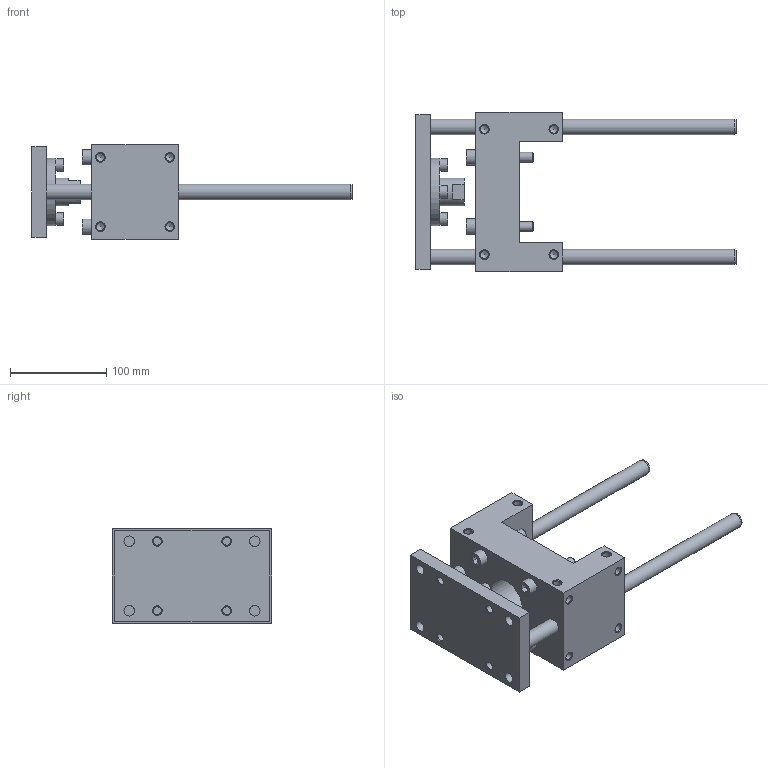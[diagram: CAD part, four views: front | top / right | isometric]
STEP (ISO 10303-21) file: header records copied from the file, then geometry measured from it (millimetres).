
FILE_DESCRIPTION( ( 'STEP AP214' ), '1' );
FILE_NAME( 'U:/Etudes/Top Solid/BIBLIO 3D AVM/TOP/PNEUMATIQUE/GUIDAGES/Type 34 (en U)/_Légère/3483130.step', '2005-05-27T12:35:07', ( ' ' ), ( ' ' ), 'XStep 1.0', ' ', ' ' );
FILE_SCHEMA( ( 'automotive_design' ) );
Length unit declared in the file: metre
Products named in the file (2): 1; 2
Bounding box: 332 x 165 x 98 mm (x, y, z)
Volume: 1266842.1 mm3; surface area: 199283.1 mm2
Topology: 2 solids, 7 shells, 245 faces, 598 edges, 389 vertices
Faces by surface type: plane 108, cylinder 92, cone 45
Full cylindrical faces by diameter (mm): 4.918 x4, 8 x8, 8.376 x32, 8.5 x4, 10 x8, 11 x8, 13 x4, 16 x8, 18.376 x2, 29 x1, 32 x1, 42 x1, 45 x2, 70 x1
Entity records: 8253 total; most frequent: CARTESIAN_POINT 1235, DIRECTION 1080, ORIENTED_EDGE 790, AXIS2_PLACEMENT_3D 446, EDGE_LOOP 436, EDGE_CURVE 395, FACE_OUTER_BOUND 329, VERTEX_POINT 329
